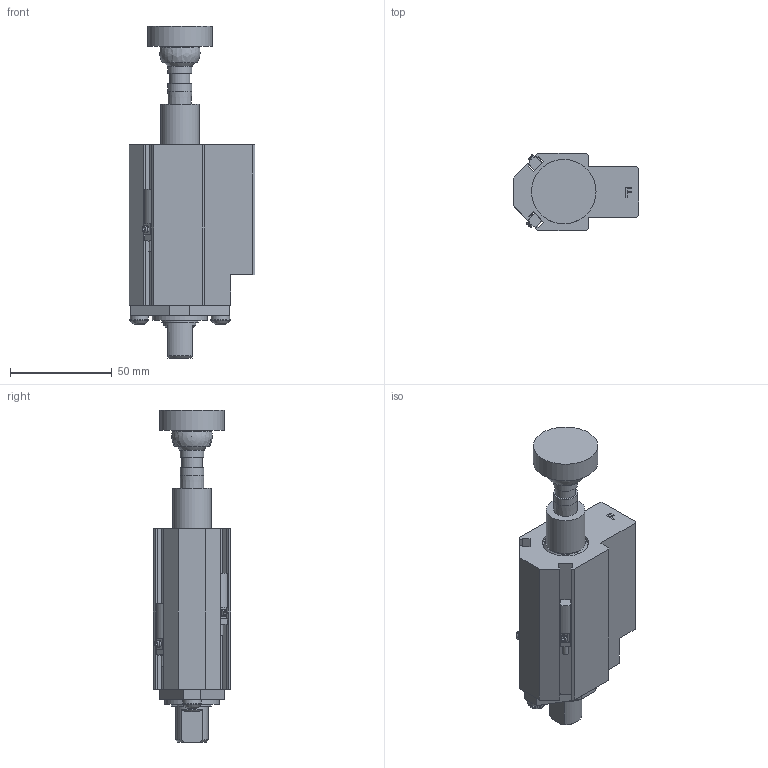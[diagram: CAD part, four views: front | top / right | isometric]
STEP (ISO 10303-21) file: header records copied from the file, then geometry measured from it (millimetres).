
FILE_DESCRIPTION(/* description */ ('MINI PASS THRU GROUND BLOCK'),/* implementation_level */ '2;1');
FILE_NAME(/* name */ 'C:\Vault Workspace\CAD\Welker\Cylinders\GBM\GBMCFL3.stp',/* time_stamp */ '2021-06-25T07:42:02-04:00',/* author */ ('KPL'),/* organization */ (''),/* preprocessor_version */ 'ST-DEVELOPER v18.1',/* originating_system */ 'Autodesk Inventor 2020',/* authorisation */ '');
FILE_SCHEMA (('AUTOMOTIVE_DESIGN { 1 0 10303 214 3 1 1 }'));
Products named in the file (11): GBML01; 91590A126; 96100A152; L3 Sensor 1; M5X0.8-10 BHCS; NL5; GBME01F; GBME02; GBME04; SN-1410; AN-05U2145
Assembly tree (13 placements, depth 2):
  GBML01
    91590A126
    96100A152
    L3 Sensor 1  x2
    M5X0.8-10 BHCS  x2
    NL5  x2
    GBME01F
    GBME02
    GBME04
    SN-1410
    AN-05U2145
Bounding box: 62 x 38.1 x 163.5 mm (x, y, z)
Volume: 140124.8 mm3; surface area: 50160.1 mm2
Topology: 13 solids, 13 shells, 439 faces, 1207 edges, 808 vertices
Faces by surface type: plane 310, cylinder 97, cone 22, torus 4, sphere 4, bspline 2
Full cylindrical faces by diameter (mm): 1.194 x2, 2.9 x2, 4.134 x2, 5 x2, 5.4 x2, 5.5 x2, 6.647 x1, 8 x2, 8.376 x2, 9 x2, 9.5 x2, 10 x1, 11.76 x2, 14.935 x1, 15.875 x3, 16.383 x1, 19.05 x1, 19.177 x1, 22.225 x2, 22.784 x1, 24.613 x1, 25.654 x1, 25.705 x1, 26.987 x1, 28.591 x1, 28.667 x1, 31.75 x1
Entity records: 10040 total; most frequent: CARTESIAN_POINT 1751, DIRECTION 1675, ORIENTED_EDGE 1586, EDGE_CURVE 793, AXIS2_PLACEMENT_3D 579, VERTEX_POINT 545, LINE 517, VECTOR 517
